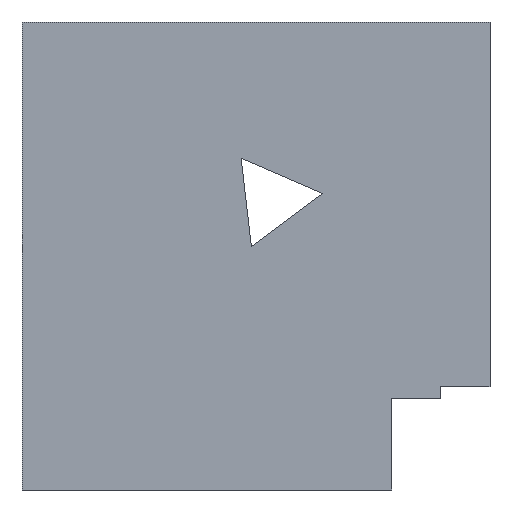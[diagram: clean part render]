
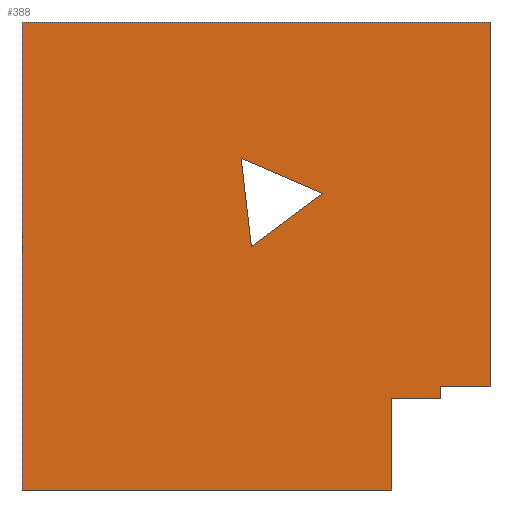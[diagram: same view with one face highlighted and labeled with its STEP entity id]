
A CAD part, front view. The second image highlights one B-rep face of the part: STEP entity #388.
In plain terms, the highlighted planar face has unit normal (0, -1, 0).
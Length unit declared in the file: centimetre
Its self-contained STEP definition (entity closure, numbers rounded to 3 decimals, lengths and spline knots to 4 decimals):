
#10 = LINE ( 'NONE', #1474, #610 ) ;
#16 = VECTOR ( 'NONE', #650, 100. ) ;
#20 = DIRECTION ( 'NONE',  ( 0., 1., 0. ) ) ;
#27 = EDGE_CURVE ( 'NONE', #81, #673, #1422, .T. ) ;
#81 = VERTEX_POINT ( 'NONE', #899 ) ;
#82 = EDGE_CURVE ( 'NONE', #1034, #1136, #1430, .T. ) ;
#101 = CARTESIAN_POINT ( 'NONE',  ( 1000., 0., 1000. ) ) ;
#109 = EDGE_LOOP ( 'NONE', ( #282, #1424, #414, #452, #309, #1660, #1362, #1240 ) ) ;
#113 = CARTESIAN_POINT ( 'NONE',  ( 1000., 0., 220.9273 ) ) ;
#139 = CARTESIAN_POINT ( 'NONE',  ( 0., 0., 1000. ) ) ;
#177 = EDGE_CURVE ( 'NONE', #589, #1034, #10, .T. ) ;
#180 = VECTOR ( 'NONE', #1625, 100. ) ;
#205 = VECTOR ( 'NONE', #1417, 100. ) ;
#226 = LINE ( 'NONE', #766, #520 ) ;
#228 = DIRECTION ( 'NONE',  ( 0., 0., -1. ) ) ;
#233 = CARTESIAN_POINT ( 'NONE',  ( 642.5302, 0., 633.5035 ) ) ;
#245 = EDGE_CURVE ( 'NONE', #847, #1136, #829, .T. ) ;
#281 = PLANE ( 'NONE',  #1048 ) ;
#282 = ORIENTED_EDGE ( 'NONE', *, *, #772, .T. ) ;
#309 = ORIENTED_EDGE ( 'NONE', *, *, #177, .F. ) ;
#317 = EDGE_CURVE ( 'NONE', #1413, #854, #561, .T. ) ;
#351 = EDGE_CURVE ( 'NONE', #854, #1130, #1368, .T. ) ;
#388 = ADVANCED_FACE ( 'NONE', ( #542, #1608 ), #281, .F. ) ;
#402 = CARTESIAN_POINT ( 'NONE',  ( 894.9195, 0., 194.4956 ) ) ;
#414 = ORIENTED_EDGE ( 'NONE', *, *, #245, .T. ) ;
#417 = CARTESIAN_POINT ( 'NONE',  ( 490.1455, 0., 520.2457 ) ) ;
#423 = DIRECTION ( 'NONE',  ( 0., 0., 1. ) ) ;
#452 = ORIENTED_EDGE ( 'NONE', *, *, #82, .F. ) ;
#519 = LINE ( 'NONE', #233, #205 ) ;
#520 = VECTOR ( 'NONE', #640, 100. ) ;
#542 = FACE_BOUND ( 'NONE', #767, .T. ) ;
#550 = CARTESIAN_POINT ( 'NONE',  ( 894.9195, 0., 220.9273 ) ) ;
#561 = LINE ( 'NONE', #1088, #180 ) ;
#589 = VERTEX_POINT ( 'NONE', #623 ) ;
#610 = VECTOR ( 'NONE', #1068, 100. ) ;
#622 = CARTESIAN_POINT ( 'NONE',  ( 789.8389, 0., 0. ) ) ;
#623 = CARTESIAN_POINT ( 'NONE',  ( 0., 0., 1000. ) ) ;
#640 = DIRECTION ( 'NONE',  ( 1., 0., 0. ) ) ;
#650 = DIRECTION ( 'NONE',  ( 1., 0., 0. ) ) ;
#673 = VERTEX_POINT ( 'NONE', #1714 ) ;
#679 = DIRECTION ( 'NONE',  ( 0., 0., 1. ) ) ;
#682 = VECTOR ( 'NONE', #942, 100. ) ;
#763 = EDGE_CURVE ( 'NONE', #589, #81, #896, .T. ) ;
#766 = CARTESIAN_POINT ( 'NONE',  ( 789.8389, 0., 194.4956 ) ) ;
#767 = EDGE_LOOP ( 'NONE', ( #1002, #1385, #784 ) ) ;
#772 = EDGE_CURVE ( 'NONE', #1042, #1511, #226, .T. ) ;
#784 = ORIENTED_EDGE ( 'NONE', *, *, #317, .T. ) ;
#787 = CARTESIAN_POINT ( 'NONE',  ( 789.8389, 0., 194.4956 ) ) ;
#820 = CARTESIAN_POINT ( 'NONE',  ( 468.2537, 0., 708.8436 ) ) ;
#822 = LINE ( 'NONE', #1622, #963 ) ;
#823 = VECTOR ( 'NONE', #228, 100. ) ;
#829 = LINE ( 'NONE', #1490, #996 ) ;
#847 = VERTEX_POINT ( 'NONE', #550 ) ;
#854 = VERTEX_POINT ( 'NONE', #417 ) ;
#896 = LINE ( 'NONE', #1169, #990 ) ;
#899 = CARTESIAN_POINT ( 'NONE',  ( 0., 0., 0. ) ) ;
#923 = CARTESIAN_POINT ( 'NONE',  ( 1000., 0., 1000. ) ) ;
#940 = EDGE_CURVE ( 'NONE', #673, #1042, #1007, .T. ) ;
#942 = DIRECTION ( 'NONE',  ( -0.115, 0., 0.993 ) ) ;
#961 = VECTOR ( 'NONE', #1683, 100. ) ;
#963 = VECTOR ( 'NONE', #423, 100. ) ;
#990 = VECTOR ( 'NONE', #1310, 100. ) ;
#996 = VECTOR ( 'NONE', #1094, 100. ) ;
#1002 = ORIENTED_EDGE ( 'NONE', *, *, #351, .T. ) ;
#1007 = LINE ( 'NONE', #622, #961 ) ;
#1034 = VERTEX_POINT ( 'NONE', #923 ) ;
#1036 = CARTESIAN_POINT ( 'NONE',  ( 468.2537, 0., 708.8436 ) ) ;
#1042 = VERTEX_POINT ( 'NONE', #787 ) ;
#1048 = AXIS2_PLACEMENT_3D ( 'NONE', #139, #20, #679 ) ;
#1068 = DIRECTION ( 'NONE',  ( 1., 0., 0. ) ) ;
#1088 = CARTESIAN_POINT ( 'NONE',  ( 490.1455, 0., 520.2457 ) ) ;
#1094 = DIRECTION ( 'NONE',  ( 1., 0., 0. ) ) ;
#1130 = VERTEX_POINT ( 'NONE', #1036 ) ;
#1136 = VERTEX_POINT ( 'NONE', #113 ) ;
#1166 = CARTESIAN_POINT ( 'NONE',  ( 642.5302, 0., 633.5035 ) ) ;
#1169 = CARTESIAN_POINT ( 'NONE',  ( 0., 0., 1000. ) ) ;
#1240 = ORIENTED_EDGE ( 'NONE', *, *, #940, .T. ) ;
#1310 = DIRECTION ( 'NONE',  ( 0., 0., -1. ) ) ;
#1362 = ORIENTED_EDGE ( 'NONE', *, *, #27, .T. ) ;
#1366 = EDGE_CURVE ( 'NONE', #1130, #1413, #519, .T. ) ;
#1368 = LINE ( 'NONE', #820, #682 ) ;
#1385 = ORIENTED_EDGE ( 'NONE', *, *, #1366, .T. ) ;
#1413 = VERTEX_POINT ( 'NONE', #1166 ) ;
#1417 = DIRECTION ( 'NONE',  ( 0.918, 0., -0.397 ) ) ;
#1422 = LINE ( 'NONE', #1708, #16 ) ;
#1424 = ORIENTED_EDGE ( 'NONE', *, *, #1574, .T. ) ;
#1430 = LINE ( 'NONE', #101, #823 ) ;
#1474 = CARTESIAN_POINT ( 'NONE',  ( 0., 0., 1000. ) ) ;
#1490 = CARTESIAN_POINT ( 'NONE',  ( 894.9195, 0., 220.9273 ) ) ;
#1511 = VERTEX_POINT ( 'NONE', #402 ) ;
#1574 = EDGE_CURVE ( 'NONE', #1511, #847, #822, .T. ) ;
#1608 = FACE_OUTER_BOUND ( 'NONE', #109, .T. ) ;
#1622 = CARTESIAN_POINT ( 'NONE',  ( 894.9195, 0., 0. ) ) ;
#1625 = DIRECTION ( 'NONE',  ( -0.803, 0., -0.597 ) ) ;
#1660 = ORIENTED_EDGE ( 'NONE', *, *, #763, .T. ) ;
#1683 = DIRECTION ( 'NONE',  ( 0., 0., 1. ) ) ;
#1708 = CARTESIAN_POINT ( 'NONE',  ( 0., 0., 0. ) ) ;
#1714 = CARTESIAN_POINT ( 'NONE',  ( 789.8389, 0., 0. ) ) ;
